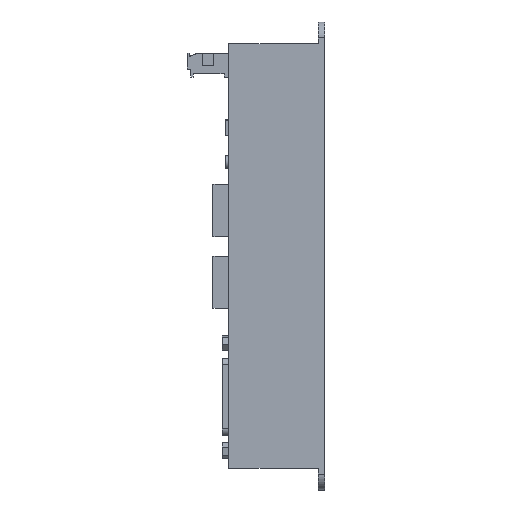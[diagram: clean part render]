
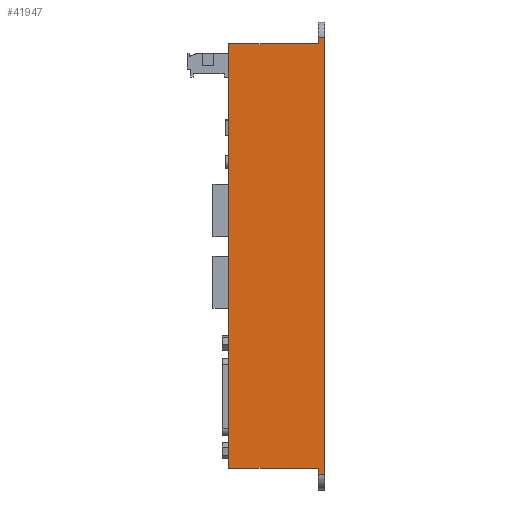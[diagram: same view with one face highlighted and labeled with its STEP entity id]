
A CAD part, left-side view. The second image highlights one B-rep face of the part: STEP entity #41947.
In plain terms, the highlighted planar face has unit normal (-1, 0, 0).
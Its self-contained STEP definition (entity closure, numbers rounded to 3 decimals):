
#580 = DIRECTION ( 'NONE',  ( 0., 0., -1. ) ) ;
#1400 = CARTESIAN_POINT ( 'NONE',  ( -105., 2., -73.25 ) ) ;
#2105 = DIRECTION ( 'NONE',  ( 0., 0., 1. ) ) ;
#2189 = CARTESIAN_POINT ( 'NONE',  ( -105., 2., 68.25 ) ) ;
#2223 = LINE ( 'NONE', #3029, #34140 ) ;
#2844 = EDGE_CURVE ( 'NONE', #46354, #47624, #52069, .T. ) ;
#3029 = CARTESIAN_POINT ( 'NONE',  ( -105., 30., -66.5 ) ) ;
#4400 = ORIENTED_EDGE ( 'NONE', *, *, #13581, .F. ) ;
#4668 = ORIENTED_EDGE ( 'NONE', *, *, #29984, .T. ) ;
#5207 = DIRECTION ( 'NONE',  ( 1., 0., 0. ) ) ;
#6022 = LINE ( 'NONE', #1400, #23006 ) ;
#6185 = LINE ( 'NONE', #22856, #11062 ) ;
#7172 = DIRECTION ( 'NONE',  ( 0., -1., 0. ) ) ;
#7216 = CARTESIAN_POINT ( 'NONE',  ( -105., 2., 68.25 ) ) ;
#8523 = EDGE_CURVE ( 'NONE', #45429, #35289, #28584, .T. ) ;
#9330 = FACE_OUTER_BOUND ( 'NONE', #9844, .T. ) ;
#9549 = CARTESIAN_POINT ( 'NONE',  ( -105., 2., 66.5 ) ) ;
#9844 = EDGE_LOOP ( 'NONE', ( #20513, #51176, #4400, #30896, #28838, #38419, #16358, #4668 ) ) ;
#11010 = VERTEX_POINT ( 'NONE', #49383 ) ;
#11062 = VECTOR ( 'NONE', #2105, 1000. ) ;
#11781 = CARTESIAN_POINT ( 'NONE',  ( -105., 30., 66.5 ) ) ;
#12688 = LINE ( 'NONE', #29334, #29195 ) ;
#13027 = CARTESIAN_POINT ( 'NONE',  ( -105., 2., -68.25 ) ) ;
#13148 = CARTESIAN_POINT ( 'NONE',  ( -105., 2., -73.25 ) ) ;
#13391 = EDGE_CURVE ( 'NONE', #24475, #23422, #53837, .T. ) ;
#13581 = EDGE_CURVE ( 'NONE', #23422, #35289, #6022, .T. ) ;
#16358 = ORIENTED_EDGE ( 'NONE', *, *, #2844, .F. ) ;
#18255 = CARTESIAN_POINT ( 'NONE',  ( -105., 2., -73.25 ) ) ;
#19379 = VECTOR ( 'NONE', #32933, 1000. ) ;
#20513 = ORIENTED_EDGE ( 'NONE', *, *, #36731, .T. ) ;
#22479 = CARTESIAN_POINT ( 'NONE',  ( -105., 0., -73.25 ) ) ;
#22856 = CARTESIAN_POINT ( 'NONE',  ( -105., 30., -66.5 ) ) ;
#23006 = VECTOR ( 'NONE', #27044, 1000. ) ;
#23422 = VERTEX_POINT ( 'NONE', #9549 ) ;
#23830 = CARTESIAN_POINT ( 'NONE',  ( -105., 30., 66.5 ) ) ;
#24475 = VERTEX_POINT ( 'NONE', #11781 ) ;
#24710 = VECTOR ( 'NONE', #34883, 1000. ) ;
#25238 = DIRECTION ( 'NONE',  ( 0., -1., 0. ) ) ;
#27044 = DIRECTION ( 'NONE',  ( 0., 0., 1. ) ) ;
#28584 = LINE ( 'NONE', #2189, #19379 ) ;
#28838 = ORIENTED_EDGE ( 'NONE', *, *, #33568, .F. ) ;
#29195 = VECTOR ( 'NONE', #25238, 1000. ) ;
#29334 = CARTESIAN_POINT ( 'NONE',  ( -105., 2., -68.25 ) ) ;
#29984 = EDGE_CURVE ( 'NONE', #46354, #11010, #12688, .T. ) ;
#30896 = ORIENTED_EDGE ( 'NONE', *, *, #13391, .F. ) ;
#32221 = CARTESIAN_POINT ( 'NONE',  ( -105., 2., -66.5 ) ) ;
#32933 = DIRECTION ( 'NONE',  ( 0., 1., 0. ) ) ;
#33568 = EDGE_CURVE ( 'NONE', #53126, #24475, #6185, .T. ) ;
#34140 = VECTOR ( 'NONE', #43698, 1000. ) ;
#34883 = DIRECTION ( 'NONE',  ( 0., 0., 1. ) ) ;
#35285 = AXIS2_PLACEMENT_3D ( 'NONE', #13148, #5207, #580 ) ;
#35289 = VERTEX_POINT ( 'NONE', #7216 ) ;
#36731 = EDGE_CURVE ( 'NONE', #11010, #45429, #42938, .T. ) ;
#38419 = ORIENTED_EDGE ( 'NONE', *, *, #39368, .T. ) ;
#39368 = EDGE_CURVE ( 'NONE', #53126, #47624, #2223, .T. ) ;
#40889 = VECTOR ( 'NONE', #47307, 1000. ) ;
#41947 = ADVANCED_FACE ( 'NONE', ( #9330 ), #50536, .F. ) ;
#42938 = LINE ( 'NONE', #22479, #40889 ) ;
#43698 = DIRECTION ( 'NONE',  ( 0., -1., 0. ) ) ;
#45429 = VERTEX_POINT ( 'NONE', #52272 ) ;
#46354 = VERTEX_POINT ( 'NONE', #13027 ) ;
#47307 = DIRECTION ( 'NONE',  ( 0., 0., 1. ) ) ;
#47624 = VERTEX_POINT ( 'NONE', #32221 ) ;
#49383 = CARTESIAN_POINT ( 'NONE',  ( -105., 0., -68.25 ) ) ;
#50536 = PLANE ( 'NONE',  #35285 ) ;
#50861 = VECTOR ( 'NONE', #7172, 1000. ) ;
#51176 = ORIENTED_EDGE ( 'NONE', *, *, #8523, .T. ) ;
#52069 = LINE ( 'NONE', #18255, #24710 ) ;
#52272 = CARTESIAN_POINT ( 'NONE',  ( -105., 0., 68.25 ) ) ;
#53126 = VERTEX_POINT ( 'NONE', #53256 ) ;
#53256 = CARTESIAN_POINT ( 'NONE',  ( -105., 30., -66.5 ) ) ;
#53837 = LINE ( 'NONE', #23830, #50861 ) ;
